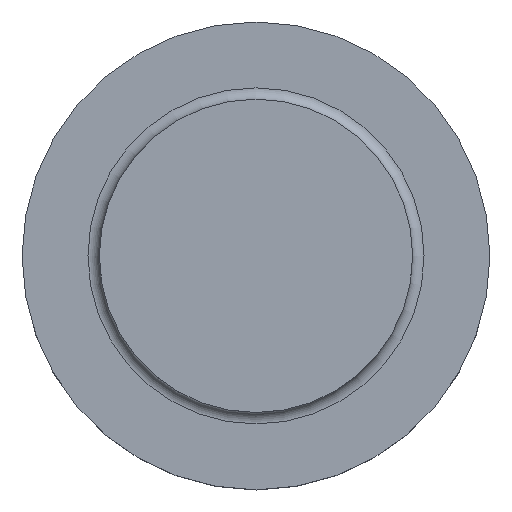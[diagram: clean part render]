
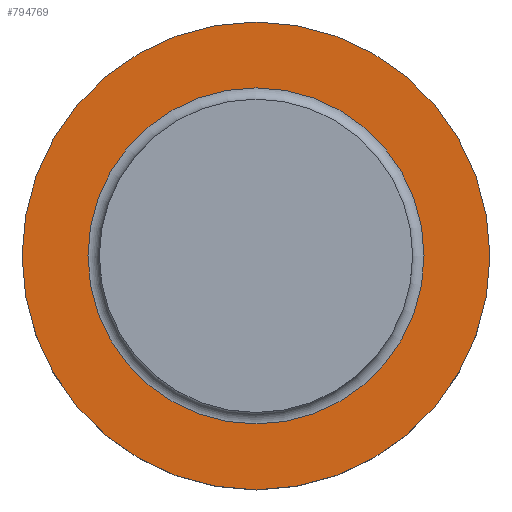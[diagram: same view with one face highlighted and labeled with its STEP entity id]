
A CAD part, top view. The second image highlights one B-rep face of the part: STEP entity #794769.
In plain terms, the highlighted planar face has unit normal (0, 0, 1) as drawn and (1, 0, 0) by its records, which use the part's own axes.
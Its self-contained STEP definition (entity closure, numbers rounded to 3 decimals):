
#54885=FACE_BOUND('',#130729,.T.);
#59706=PLANE('',#856505);
#81784=FACE_OUTER_BOUND('',#130728,.T.);
#130728=EDGE_LOOP('',(#562104));
#130729=EDGE_LOOP('',(#562105));
#263020=CIRCLE('',#856502,29.5);
#263022=CIRCLE('',#856506,41.063);
#321172=VERTEX_POINT('',#2247996);
#321174=VERTEX_POINT('',#2248004);
#408686=EDGE_CURVE('',#321172,#321172,#263020,.T.);
#408689=EDGE_CURVE('',#321174,#321174,#263022,.T.);
#562104=ORIENTED_EDGE('',*,*,#408689,.T.);
#562105=ORIENTED_EDGE('',*,*,#408686,.F.);
#794769=ADVANCED_FACE('',(#81784,#54885),#59706,.T.);
#856502=AXIS2_PLACEMENT_3D('',#2247998,#980692,#980693);
#856505=AXIS2_PLACEMENT_3D('',#2248003,#980699,#980700);
#856506=AXIS2_PLACEMENT_3D('',#2248005,#980701,#980702);
#980692=DIRECTION('center_axis',(1.,0.,0.));
#980693=DIRECTION('ref_axis',(0.,0.,1.));
#980699=DIRECTION('center_axis',(1.,0.,0.));
#980700=DIRECTION('ref_axis',(0.,0.,-1.));
#980701=DIRECTION('center_axis',(1.,0.,0.));
#980702=DIRECTION('ref_axis',(0.,-1.,0.));
#2247996=CARTESIAN_POINT('',(20.,0.,-29.5));
#2247998=CARTESIAN_POINT('Origin',(20.,0.,0.));
#2248003=CARTESIAN_POINT('Origin',(20.,0.,0.));
#2248004=CARTESIAN_POINT('',(20.,41.063,0.));
#2248005=CARTESIAN_POINT('Origin',(20.,0.,0.));
